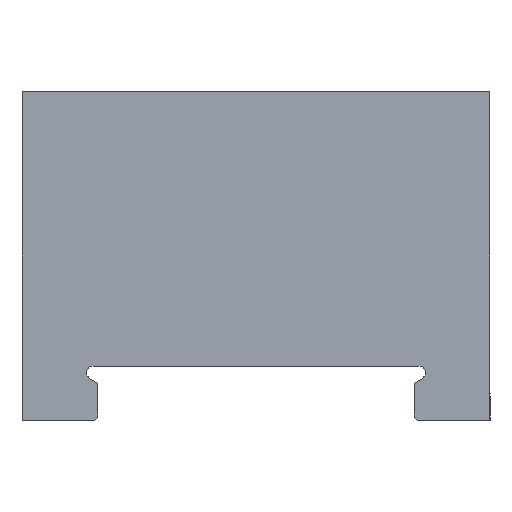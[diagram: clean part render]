
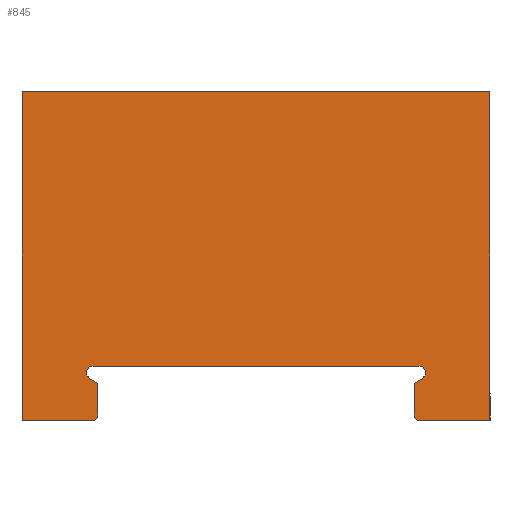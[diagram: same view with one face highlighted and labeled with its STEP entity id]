
A CAD part, front view. The second image highlights one B-rep face of the part: STEP entity #845.
In plain terms, the highlighted planar face has unit normal (0, -1, 0).
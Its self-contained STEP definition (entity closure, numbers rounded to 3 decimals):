
#3 = EDGE_CURVE ( 'NONE', #162, #397, #149, .T. ) ;
#42 = EDGE_CURVE ( 'NONE', #376, #1141, #346, .T. ) ;
#67 = EDGE_CURVE ( 'NONE', #731, #650, #75, .T. ) ;
#75 = LINE ( 'NONE', #1112, #860 ) ;
#88 = VECTOR ( 'NONE', #680, 1000. ) ;
#121 = DIRECTION ( 'NONE',  ( 0., 0., 1. ) ) ;
#123 = EDGE_CURVE ( 'NONE', #1141, #381, #1149, .T. ) ;
#149 = LINE ( 'NONE', #779, #1133 ) ;
#158 = DIRECTION ( 'NONE',  ( 0., 0., -1. ) ) ;
#162 = VERTEX_POINT ( 'NONE', #498 ) ;
#177 = AXIS2_PLACEMENT_3D ( 'NONE', #197, #393, #916 ) ;
#187 = EDGE_CURVE ( 'NONE', #162, #782, #247, .T. ) ;
#190 = DIRECTION ( 'NONE',  ( 1., 0., 0. ) ) ;
#197 = CARTESIAN_POINT ( 'NONE',  ( 26.795, -62.5, 7.8 ) ) ;
#219 = ORIENTED_EDGE ( 'NONE', *, *, #624, .T. ) ;
#222 = CARTESIAN_POINT ( 'NONE',  ( -26.795, -62.5, 7.8 ) ) ;
#231 = EDGE_CURVE ( 'NONE', #883, #1237, #1284, .T. ) ;
#234 = VECTOR ( 'NONE', #905, 1000. ) ;
#239 = EDGE_CURVE ( 'NONE', #273, #376, #634, .T. ) ;
#247 = LINE ( 'NONE', #804, #542 ) ;
#272 = CARTESIAN_POINT ( 'NONE',  ( -26., -62.5, -7. ) ) ;
#273 = VERTEX_POINT ( 'NONE', #516 ) ;
#275 = ORIENTED_EDGE ( 'NONE', *, *, #3, .F. ) ;
#303 = DIRECTION ( 'NONE',  ( 0., 0., 1. ) ) ;
#310 = CARTESIAN_POINT ( 'NONE',  ( -26., -62.5, 6.071 ) ) ;
#320 = CARTESIAN_POINT ( 'NONE',  ( 26., -62.5, -7. ) ) ;
#336 = CARTESIAN_POINT ( 'NONE',  ( 26.795, -62.5, 8.9 ) ) ;
#340 = EDGE_CURVE ( 'NONE', #782, #445, #924, .T. ) ;
#345 = LINE ( 'NONE', #527, #662 ) ;
#346 = LINE ( 'NONE', #379, #555 ) ;
#354 = CARTESIAN_POINT ( 'NONE',  ( 27.345, -62.5, 6.847 ) ) ;
#370 = ORIENTED_EDGE ( 'NONE', *, *, #413, .T. ) ;
#376 = VERTEX_POINT ( 'NONE', #757 ) ;
#379 = CARTESIAN_POINT ( 'NONE',  ( 26., -62.5, 6.071 ) ) ;
#381 = VERTEX_POINT ( 'NONE', #336 ) ;
#393 = DIRECTION ( 'NONE',  ( 0., -1., 0. ) ) ;
#397 = VERTEX_POINT ( 'NONE', #948 ) ;
#413 = EDGE_CURVE ( 'NONE', #445, #765, #522, .T. ) ;
#422 = LINE ( 'NONE', #592, #234 ) ;
#445 = VERTEX_POINT ( 'NONE', #537 ) ;
#446 = CARTESIAN_POINT ( 'NONE',  ( 26.795, -62.5, 8.9 ) ) ;
#494 = DIRECTION ( 'NONE',  ( 0., 0., -1. ) ) ;
#497 = CARTESIAN_POINT ( 'NONE',  ( -26.795, -62.5, 8.9 ) ) ;
#498 = CARTESIAN_POINT ( 'NONE',  ( -38.5, -62.5, 54. ) ) ;
#501 = VECTOR ( 'NONE', #158, 1000. ) ;
#516 = CARTESIAN_POINT ( 'NONE',  ( 26., -62.5, 0.5 ) ) ;
#522 = LINE ( 'NONE', #1155, #1302 ) ;
#527 = CARTESIAN_POINT ( 'NONE',  ( -26., -62.5, 6.071 ) ) ;
#537 = CARTESIAN_POINT ( 'NONE',  ( -26.5, -62.5, 0. ) ) ;
#542 = VECTOR ( 'NONE', #1121, 1000. ) ;
#555 = VECTOR ( 'NONE', #704, 1000. ) ;
#559 = EDGE_CURVE ( 'NONE', #381, #883, #815, .T. ) ;
#581 = CARTESIAN_POINT ( 'NONE',  ( 26.5, -62.5, 0. ) ) ;
#592 = CARTESIAN_POINT ( 'NONE',  ( 26.5, -62.5, 0. ) ) ;
#601 = VECTOR ( 'NONE', #494, 1000. ) ;
#618 = EDGE_CURVE ( 'NONE', #766, #765, #1208, .T. ) ;
#624 = EDGE_CURVE ( 'NONE', #273, #731, #422, .T. ) ;
#634 = LINE ( 'NONE', #320, #1166 ) ;
#648 = VECTOR ( 'NONE', #746, 1000. ) ;
#650 = VERTEX_POINT ( 'NONE', #995 ) ;
#662 = VECTOR ( 'NONE', #850, 1000. ) ;
#665 = ORIENTED_EDGE ( 'NONE', *, *, #1004, .F. ) ;
#680 = DIRECTION ( 'NONE',  ( -1., 0., 0. ) ) ;
#704 = DIRECTION ( 'NONE',  ( 0.866, 0., 0.5 ) ) ;
#731 = VERTEX_POINT ( 'NONE', #581 ) ;
#733 = ORIENTED_EDGE ( 'NONE', *, *, #187, .T. ) ;
#738 = DIRECTION ( 'NONE',  ( 0.707, 0., 0.707 ) ) ;
#740 = ORIENTED_EDGE ( 'NONE', *, *, #67, .T. ) ;
#743 = LINE ( 'NONE', #1082, #501 ) ;
#746 = DIRECTION ( 'NONE',  ( 1., 0., 0. ) ) ;
#756 = ORIENTED_EDGE ( 'NONE', *, *, #559, .F. ) ;
#757 = CARTESIAN_POINT ( 'NONE',  ( 26., -62.5, 6.071 ) ) ;
#765 = VERTEX_POINT ( 'NONE', #921 ) ;
#766 = VERTEX_POINT ( 'NONE', #310 ) ;
#779 = CARTESIAN_POINT ( 'NONE',  ( -38.5, -62.5, 54. ) ) ;
#782 = VERTEX_POINT ( 'NONE', #811 ) ;
#790 = ORIENTED_EDGE ( 'NONE', *, *, #123, .F. ) ;
#804 = CARTESIAN_POINT ( 'NONE',  ( -38.5, -62.5, 54. ) ) ;
#811 = CARTESIAN_POINT ( 'NONE',  ( -38.5, -62.5, 0. ) ) ;
#815 = LINE ( 'NONE', #446, #88 ) ;
#818 = PLANE ( 'NONE',  #1064 ) ;
#845 = ADVANCED_FACE ( 'NONE', ( #893 ), #818, .F. ) ;
#848 = CARTESIAN_POINT ( 'NONE',  ( -38.5, -62.5, 0. ) ) ;
#850 = DIRECTION ( 'NONE',  ( 0.866, 0., -0.5 ) ) ;
#860 = VECTOR ( 'NONE', #190, 1000. ) ;
#883 = VERTEX_POINT ( 'NONE', #497 ) ;
#893 = FACE_OUTER_BOUND ( 'NONE', #909, .T. ) ;
#895 = DIRECTION ( 'NONE',  ( 1., 0., 0. ) ) ;
#905 = DIRECTION ( 'NONE',  ( 0.707, 0., -0.707 ) ) ;
#909 = EDGE_LOOP ( 'NONE', ( #1229, #219, #740, #939, #275, #733, #1023, #370, #1266, #665, #1210, #756, #790, #1186 ) ) ;
#916 = DIRECTION ( 'NONE',  ( 0., 0., 1. ) ) ;
#921 = CARTESIAN_POINT ( 'NONE',  ( -26., -62.5, 0.5 ) ) ;
#924 = LINE ( 'NONE', #848, #648 ) ;
#939 = ORIENTED_EDGE ( 'NONE', *, *, #1235, .F. ) ;
#948 = CARTESIAN_POINT ( 'NONE',  ( 38.5, -62.5, 54. ) ) ;
#995 = CARTESIAN_POINT ( 'NONE',  ( 38.5, -62.5, 0. ) ) ;
#1004 = EDGE_CURVE ( 'NONE', #1237, #766, #345, .T. ) ;
#1008 = CARTESIAN_POINT ( 'NONE',  ( -38.5, -62.5, 54. ) ) ;
#1023 = ORIENTED_EDGE ( 'NONE', *, *, #340, .T. ) ;
#1064 = AXIS2_PLACEMENT_3D ( 'NONE', #1008, #1213, #303 ) ;
#1082 = CARTESIAN_POINT ( 'NONE',  ( 38.5, -62.5, 54. ) ) ;
#1112 = CARTESIAN_POINT ( 'NONE',  ( -38.5, -62.5, 0. ) ) ;
#1118 = AXIS2_PLACEMENT_3D ( 'NONE', #222, #1242, #121 ) ;
#1121 = DIRECTION ( 'NONE',  ( 0., 0., -1. ) ) ;
#1132 = DIRECTION ( 'NONE',  ( 0., 0., 1. ) ) ;
#1133 = VECTOR ( 'NONE', #895, 1000. ) ;
#1141 = VERTEX_POINT ( 'NONE', #354 ) ;
#1149 = CIRCLE ( 'NONE', #177, 1.1 ) ;
#1155 = CARTESIAN_POINT ( 'NONE',  ( -26.5, -62.5, 0. ) ) ;
#1166 = VECTOR ( 'NONE', #1132, 1000. ) ;
#1186 = ORIENTED_EDGE ( 'NONE', *, *, #42, .F. ) ;
#1187 = CARTESIAN_POINT ( 'NONE',  ( -27.345, -62.5, 6.847 ) ) ;
#1208 = LINE ( 'NONE', #272, #601 ) ;
#1210 = ORIENTED_EDGE ( 'NONE', *, *, #231, .F. ) ;
#1213 = DIRECTION ( 'NONE',  ( 0., 1., 0. ) ) ;
#1229 = ORIENTED_EDGE ( 'NONE', *, *, #239, .F. ) ;
#1235 = EDGE_CURVE ( 'NONE', #397, #650, #743, .T. ) ;
#1237 = VERTEX_POINT ( 'NONE', #1187 ) ;
#1242 = DIRECTION ( 'NONE',  ( 0., -1., 0. ) ) ;
#1266 = ORIENTED_EDGE ( 'NONE', *, *, #618, .F. ) ;
#1284 = CIRCLE ( 'NONE', #1118, 1.1 ) ;
#1302 = VECTOR ( 'NONE', #738, 1000. ) ;
